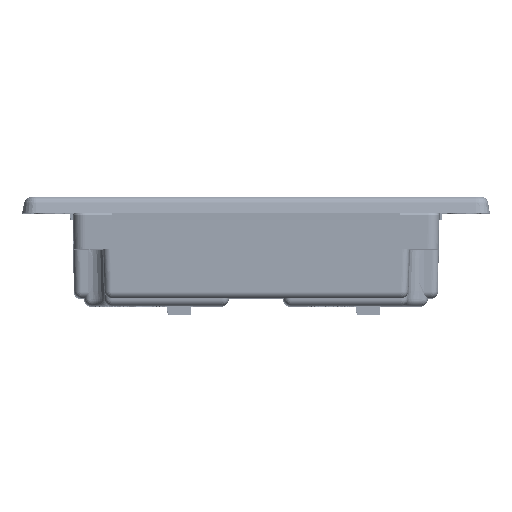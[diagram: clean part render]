
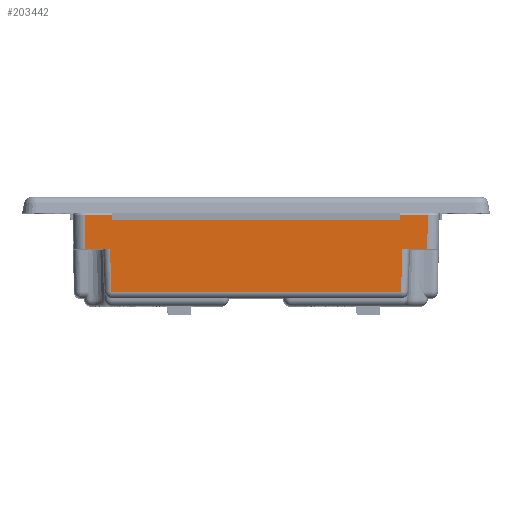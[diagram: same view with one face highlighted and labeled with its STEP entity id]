
A CAD part, left-side view. The second image highlights one B-rep face of the part: STEP entity #203442.
In plain terms, the highlighted planar face has unit normal (-1, -0.001, -0.016) as drawn and (1, 0, 0.017) by its records, which use the part's own axes.
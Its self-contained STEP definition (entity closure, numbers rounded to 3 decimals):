
#45128=ORIENTED_EDGE('',*,*,#85276,.F.);
#45129=ORIENTED_EDGE('',*,*,#85143,.F.);
#45130=ORIENTED_EDGE('',*,*,#85277,.T.);
#45131=ORIENTED_EDGE('',*,*,#85199,.F.);
#45132=ORIENTED_EDGE('',*,*,#85278,.T.);
#45133=ORIENTED_EDGE('',*,*,#85268,.F.);
#45134=ORIENTED_EDGE('',*,*,#85279,.T.);
#45135=ORIENTED_EDGE('',*,*,#85280,.T.);
#85143=EDGE_CURVE('',#108386,#108387,#129749,.T.);
#85199=EDGE_CURVE('',#108420,#108421,#129779,.T.);
#85268=EDGE_CURVE('',#108461,#108462,#129822,.T.);
#85276=EDGE_CURVE('',#108387,#108467,#129825,.T.);
#85277=EDGE_CURVE('',#108386,#108421,#129826,.T.);
#85278=EDGE_CURVE('',#108420,#108462,#129827,.T.);
#85279=EDGE_CURVE('',#108461,#108468,#129828,.T.);
#85280=EDGE_CURVE('',#108468,#108467,#129829,.T.);
#108386=VERTEX_POINT('',#429216);
#108387=VERTEX_POINT('',#429218);
#108420=VERTEX_POINT('',#429529);
#108421=VERTEX_POINT('',#429533);
#108461=VERTEX_POINT('',#429733);
#108462=VERTEX_POINT('',#429735);
#108467=VERTEX_POINT('',#429755);
#108468=VERTEX_POINT('',#429761);
#129749=LINE('',#429217,#152189);
#129779=LINE('',#429532,#152219);
#129822=LINE('',#429734,#152262);
#129825=LINE('',#429756,#152265);
#129826=LINE('',#429758,#152266);
#129827=LINE('',#429759,#152267);
#129828=LINE('',#429760,#152268);
#129829=LINE('',#429762,#152269);
#152189=VECTOR('',#298277,1000.);
#152219=VECTOR('',#298353,1000.);
#152262=VECTOR('',#298482,1000.);
#152265=VECTOR('',#298495,1000.);
#152266=VECTOR('',#298498,1000.);
#152267=VECTOR('',#298499,1000.);
#152268=VECTOR('',#298500,1000.);
#152269=VECTOR('',#298501,1000.);
#168903=EDGE_LOOP('',(#45128,#45129,#45130,#45131,#45132,#45133,#45134,
#45135));
#182232=FACE_BOUND('',#168903,.T.);
#192758=PLANE('',#262750);
#203442=ADVANCED_FACE('',(#182232),#192758,.T.);
#262750=AXIS2_PLACEMENT_3D('',#429757,#298496,#298497);
#298277=DIRECTION('',(0.,1.,0.));
#298353=DIRECTION('',(0.,-1.,0.));
#298482=DIRECTION('',(0.,1.,0.));
#298495=DIRECTION('',(-0.017,0.035,0.999));
#298496=DIRECTION('',(1.,0.,0.017));
#298497=DIRECTION('',(0.,-1.,0.));
#298498=DIRECTION('',(0.017,-0.017,-1.));
#298499=DIRECTION('',(-0.017,-0.017,1.));
#298500=DIRECTION('',(-0.017,-0.035,0.999));
#298501=DIRECTION('',(0.,-1.,0.));
#429216=CARTESIAN_POINT('',(103.284,-81.352,-9.588));
#429217=CARTESIAN_POINT('',(103.284,-85.317,-9.588));
#429218=CARTESIAN_POINT('',(103.284,-72.345,-9.588));
#429529=CARTESIAN_POINT('',(103.502,43.27,-22.074));
#429532=CARTESIAN_POINT('',(103.502,47.017,-22.074));
#429533=CARTESIAN_POINT('',(103.502,-81.57,-22.074));
#429733=CARTESIAN_POINT('',(103.284,34.045,-9.588));
#429734=CARTESIAN_POINT('',(103.284,-85.317,-9.588));
#429735=CARTESIAN_POINT('',(103.284,43.052,-9.588));
#429755=CARTESIAN_POINT('',(103.016,-71.809,5.748));
#429756=CARTESIAN_POINT('',(102.976,-71.729,8.046));
#429757=CARTESIAN_POINT('',(103.052,47.017,3.705));
#429758=CARTESIAN_POINT('',(103.284,-81.352,-9.588));
#429759=CARTESIAN_POINT('',(103.502,43.27,-22.074));
#429760=CARTESIAN_POINT('',(103.284,34.045,-9.588));
#429761=CARTESIAN_POINT('',(103.016,33.51,5.748));
#429762=CARTESIAN_POINT('',(103.016,47.017,5.748));
